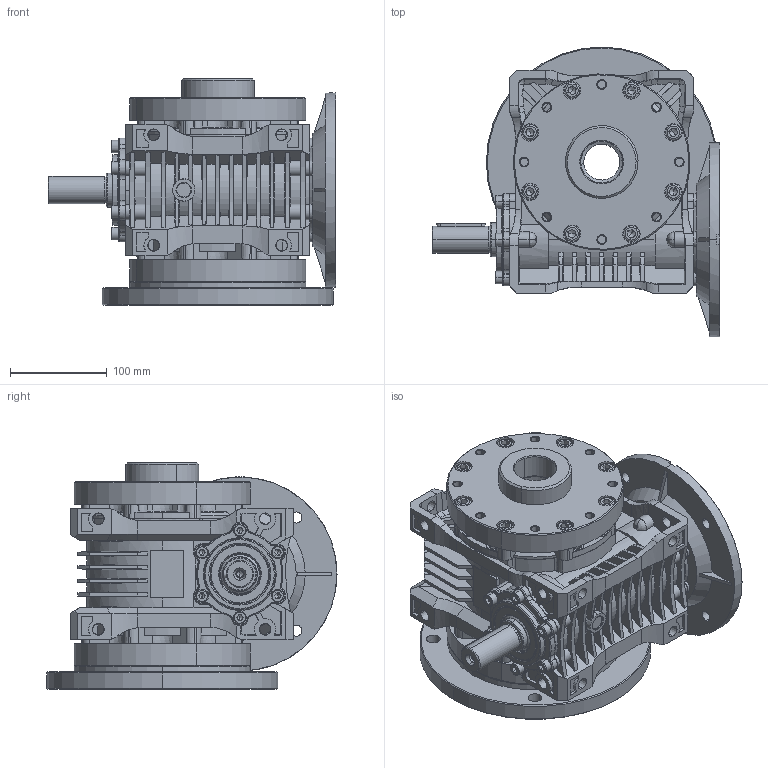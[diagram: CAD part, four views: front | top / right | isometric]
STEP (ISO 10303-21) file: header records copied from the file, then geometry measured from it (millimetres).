
FILE_DESCRIPTION (( 'STEP AP203' ), '1' );
FILE_NAME ('MRP-80_200_24_SP_KM-1_3D.STEP', '2024-10-29T10:23:42', ( '' ), ( '' ), 'SwSTEP 2.0', 'SolidWorks 2022', '' );
FILE_SCHEMA (( 'CONFIG_CONTROL_DESIGN' ));
Products named in the file (1): MRP-80_200_24_SP_KM-1_3D
Bounding box: 297 x 299.23 x 234 mm (x, y, z)
Volume: 6209213.4 mm3; surface area: 710207 mm2
Topology: 1 solids, 84 shells, 3596 faces, 9122 edges, 5755 vertices
Faces by surface type: plane 1542, cone 1012, cylinder 646, torus 264, bspline 132
Entity records: 116641 total; most frequent: CARTESIAN_POINT 31568, ORIENTED_EDGE 17962, DIRECTION 17661, EDGE_CURVE 8981, AXIS2_PLACEMENT_3D 6735, VERTEX_POINT 5755, LINE 4191, VECTOR 4191
